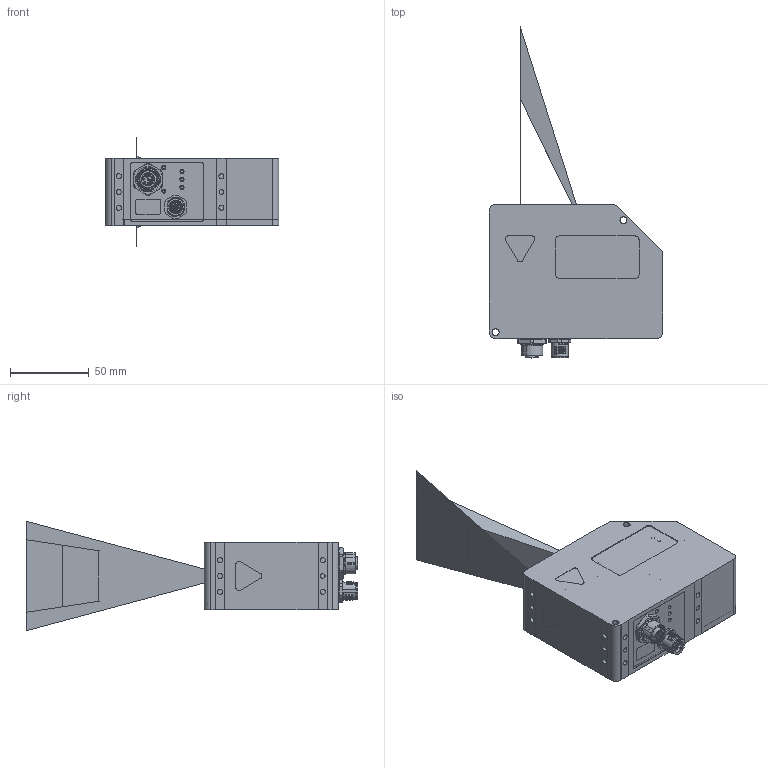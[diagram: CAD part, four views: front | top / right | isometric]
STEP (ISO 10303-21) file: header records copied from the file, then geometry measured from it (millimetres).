
FILE_DESCRIPTION(/* description */ ('202202600_Public'),/* implementation_level */ '2;1');
FILE_NAME(/* name */ 'C6-S7-1280-CS-21-40-90-SX-1G-XXX-XX_Public.iam.stp',/* time_stamp */ '2025-06-03T13:46:21+02:00',/* author */ ('AT'),/* organization */ ('Automation Technology GmbH'),/* preprocessor_version */ 'ST-DEVELOPER v20',/* originating_system */ 'Autodesk Inventor 2024',/* authorisation */ '');
FILE_SCHEMA (('AUTOMOTIVE_DESIGN { 1 0 10303 214 3 1 1 }'));
Products named in the file (17): C6-S7-1280-CS-21-40-90-SX-1G-XXX-XX_Public; 202202600-001; 202202600-002; 202202600-00X; 202190016-007; C6-S7-1280-CS-21-40-90-SX-1G-XXX-XX_Strahlengang; Screw GB/T 2672 M2,5 x 6; 1292.6001; SACC-DSI-FS-8CON-L180_SCO SH_1553860-03; SACC-DSI-FS-8CON-L180_SCO SH_1553860_Stecker; SACC-DSI-FS-8CON-L180_SCO SH_1553860_Mutter; SACC-DSI-FS-8CON-L180_SCO SH_1553860_Kunststoffeinsatz; SACC-DSI-MS-17CON-M12 SCO SH_1437119-03; SACC-DSI-MS-17CON-M12 SCO SH_1437119_Stecker; SACC-DSI-MS-17CON-M12 SCO SH_1437119_Mutter; SACC-DSI-MS-17CON-M12 SCO SH_1437119_Pins; SACC-DSI-MS-17CON-M12 SCO SH_1437119_Kunststoffeinsatz
Assembly tree (26 placements, depth 3):
  C6-S7-1280-CS-21-40-90-SX-1G-XXX-XX_Public
    202202600-001
    202202600-002
    202202600-00X
    202190016-007
    C6-S7-1280-CS-21-40-90-SX-1G-XXX-XX_Strahlengang
    Screw GB/T 2672 M2,5 x 6  x7
    1292.6001  x5
    SACC-DSI-FS-8CON-L180_SCO SH_1553860-03
      SACC-DSI-FS-8CON-L180_SCO SH_1553860_Stecker
      SACC-DSI-FS-8CON-L180_SCO SH_1553860_Mutter
      SACC-DSI-FS-8CON-L180_SCO SH_1553860_Kunststoffeinsatz
    SACC-DSI-MS-17CON-M12 SCO SH_1437119-03
      SACC-DSI-MS-17CON-M12 SCO SH_1437119_Stecker
      SACC-DSI-MS-17CON-M12 SCO SH_1437119_Mutter
      SACC-DSI-MS-17CON-M12 SCO SH_1437119_Pins
      SACC-DSI-MS-17CON-M12 SCO SH_1437119_Kunststoffeinsatz
Bounding box: 109.9 x 210.3 x 69.31 mm (x, y, z)
Volume: 129190 mm3; surface area: 94483.4 mm2
Topology: 41 solids, 42 shells, 1833 faces, 4516 edges, 2882 vertices
Faces by surface type: plane 773, cylinder 694, bspline 181, cone 90, torus 54, sphere 41
Full cylindrical faces by diameter (mm): 0.217 x1, 0.6 x25, 0.63 x34, 0.9 x8, 1 x10, 1.1 x17, 1.2 x17, 1.5 x5, 1.567 x7, 1.6 x5, 2 x14, 2.013 x24, 2.208 x7, 2.4 x7, 2.5 x7, 2.6 x12, 3 x4, 3.242 x8, 4.4 x2, 5 x7, 5.2 x7, 7.7 x1, 8.25 x2, 8.3 x1, 8.7 x1, 10.5 x1, 10.7 x3, 10.917 x2, 12 x1, 12.2 x1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
Entity records: 82732 total; most frequent: CARTESIAN_POINT 44752, ORIENTED_EDGE 7692, DIRECTION 7416, EDGE_CURVE 3848, AXIS2_PLACEMENT_3D 2668, VERTEX_POINT 2556, LINE 2080, VECTOR 2080
